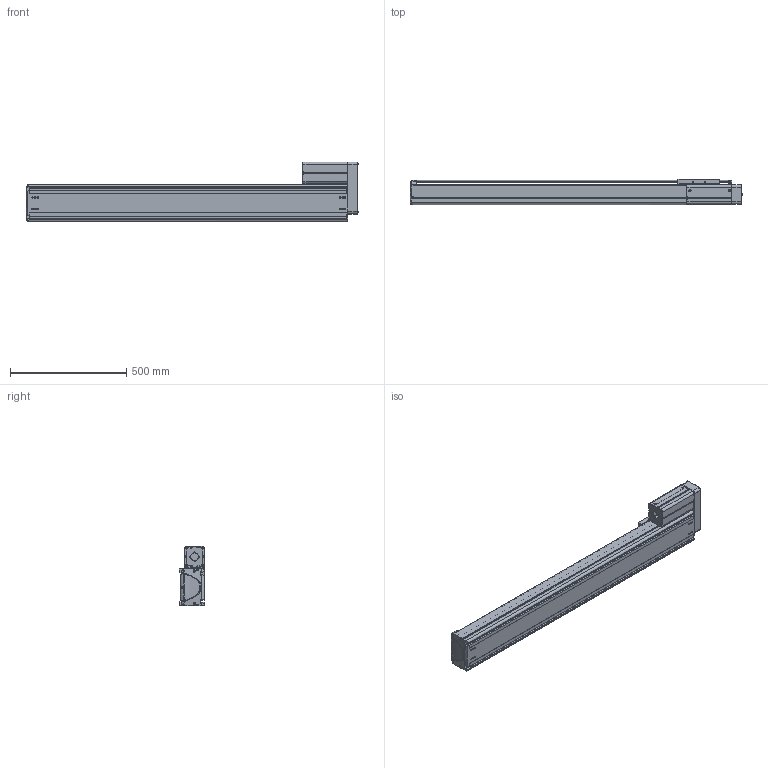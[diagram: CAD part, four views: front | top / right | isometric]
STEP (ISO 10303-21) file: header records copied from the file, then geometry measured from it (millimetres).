
FILE_DESCRIPTION((''),'2;1');
FILE_NAME('BE50F-UR-M_B-B0_IGS_PRT','2017-06-18T',(' '),(''),'PRO/ENGINEER BY PARAMETRIC TECHNOLOGY CORPORATION, 2015030','PRO/ENGINEER BY PARAMETRIC TECHNOLOGY CORPORATION, 2015030','');
FILE_SCHEMA(('CONFIG_CONTROL_DESIGN'));
Length unit declared in the file: millimetre
Products named in the file (1): BE50F-UR-M_B-B0_IGS_PRT
Bounding box: 1425.88 x 110 x 257 mm (x, y, z)
Volume: 5819298.5 mm3; surface area: 2406388.2 mm2
Topology: 6 solids, 140 shells, 2269 faces, 6220 edges, 4074 vertices
Faces by surface type: plane 1008, cylinder 987, cone 135, torus 59, bspline 48, sphere 32
Entity records: 75578 total; most frequent: CARTESIAN_POINT 17357, DIRECTION 12155, ORIENTED_EDGE 11852, EDGE_CURVE 6178, AXIS2_PLACEMENT_3D 4345, VERTEX_POINT 4070, VECTOR 3465, LINE 3465
